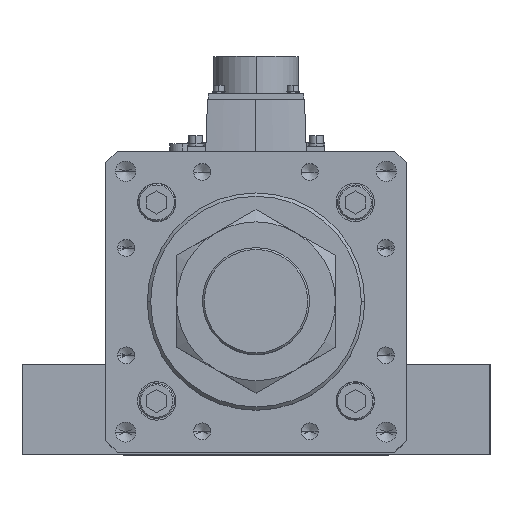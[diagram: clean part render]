
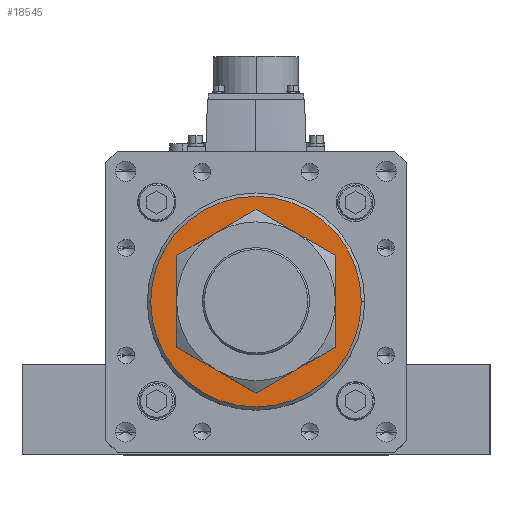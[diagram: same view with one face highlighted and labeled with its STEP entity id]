
A CAD part, top view. The second image highlights one B-rep face of the part: STEP entity #18545.
In plain terms, the highlighted planar face has unit normal (0, 0, 1).
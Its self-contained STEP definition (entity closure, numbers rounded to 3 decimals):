
#1269 = CARTESIAN_POINT ( 'NONE',  ( 0., 0., 762. ) ) ;
#2294 = CARTESIAN_POINT ( 'NONE',  ( -63., 0., 762. ) ) ;
#2505 = CIRCLE ( 'NONE', #16563, 63. ) ;
#6771 = CARTESIAN_POINT ( 'NONE',  ( 0., 0., 762. ) ) ;
#9317 = DIRECTION ( 'NONE',  ( 0., 0., 1. ) ) ;
#9600 = AXIS2_PLACEMENT_3D ( 'NONE', #22842, #9918, #46057 ) ;
#9818 = DIRECTION ( 'NONE',  ( 1., 0., 0. ) ) ;
#9918 = DIRECTION ( 'NONE',  ( 0., 0., -1. ) ) ;
#9995 = FACE_OUTER_BOUND ( 'NONE', #48105, .T. ) ;
#11247 = CARTESIAN_POINT ( 'NONE',  ( 63., 0., 762. ) ) ;
#14306 = DIRECTION ( 'NONE',  ( 1., 0., 0. ) ) ;
#15749 = DIRECTION ( 'NONE',  ( 0., 0., 1. ) ) ;
#15881 = EDGE_CURVE ( 'NONE', #51275, #42121, #47604, .T. ) ;
#15938 = CARTESIAN_POINT ( 'NONE',  ( 0., 0., 762. ) ) ;
#16563 = AXIS2_PLACEMENT_3D ( 'NONE', #1269, #39747, #9818 ) ;
#18545 = ADVANCED_FACE ( 'NONE', ( #51501, #9995 ), #37576, .T. ) ;
#19343 = DIRECTION ( 'NONE',  ( 0., 0., -1. ) ) ;
#22032 = VERTEX_POINT ( 'NONE', #11247 ) ;
#22842 = CARTESIAN_POINT ( 'NONE',  ( 0., 0., 762. ) ) ;
#23778 = DIRECTION ( 'NONE',  ( 1., 0., 0. ) ) ;
#24796 = CARTESIAN_POINT ( 'NONE',  ( -40.5, 0., 762. ) ) ;
#25585 = EDGE_CURVE ( 'NONE', #22032, #33357, #49123, .T. ) ;
#25878 = AXIS2_PLACEMENT_3D ( 'NONE', #6771, #19343, #23778 ) ;
#28654 = EDGE_LOOP ( 'NONE', ( #50127, #34972 ) ) ;
#31337 = CARTESIAN_POINT ( 'NONE',  ( 0., 0., 762. ) ) ;
#33248 = AXIS2_PLACEMENT_3D ( 'NONE', #31337, #9317, #14306 ) ;
#33357 = VERTEX_POINT ( 'NONE', #2294 ) ;
#34972 = ORIENTED_EDGE ( 'NONE', *, *, #15881, .T. ) ;
#36632 = ORIENTED_EDGE ( 'NONE', *, *, #25585, .T. ) ;
#37576 = PLANE ( 'NONE',  #48249 ) ;
#39747 = DIRECTION ( 'NONE',  ( 0., 0., 1. ) ) ;
#42121 = VERTEX_POINT ( 'NONE', #48434 ) ;
#42422 = DIRECTION ( 'NONE',  ( 1., 0., 0. ) ) ;
#44324 = EDGE_CURVE ( 'NONE', #42121, #51275, #53005, .T. ) ;
#46057 = DIRECTION ( 'NONE',  ( 1., 0., 0. ) ) ;
#46197 = ORIENTED_EDGE ( 'NONE', *, *, #56330, .T. ) ;
#47604 = CIRCLE ( 'NONE', #9600, 40.5 ) ;
#48105 = EDGE_LOOP ( 'NONE', ( #46197, #36632 ) ) ;
#48249 = AXIS2_PLACEMENT_3D ( 'NONE', #15938, #15749, #42422 ) ;
#48434 = CARTESIAN_POINT ( 'NONE',  ( 40.5, 0., 762. ) ) ;
#49123 = CIRCLE ( 'NONE', #33248, 63. ) ;
#50127 = ORIENTED_EDGE ( 'NONE', *, *, #44324, .T. ) ;
#51275 = VERTEX_POINT ( 'NONE', #24796 ) ;
#51501 = FACE_BOUND ( 'NONE', #28654, .T. ) ;
#53005 = CIRCLE ( 'NONE', #25878, 40.5 ) ;
#56330 = EDGE_CURVE ( 'NONE', #33357, #22032, #2505, .T. ) ;
